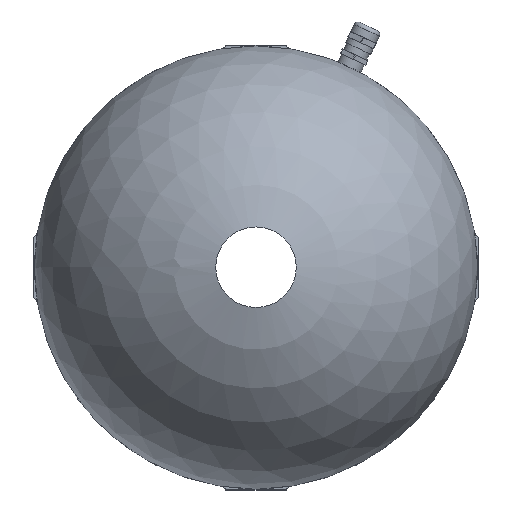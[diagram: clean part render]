
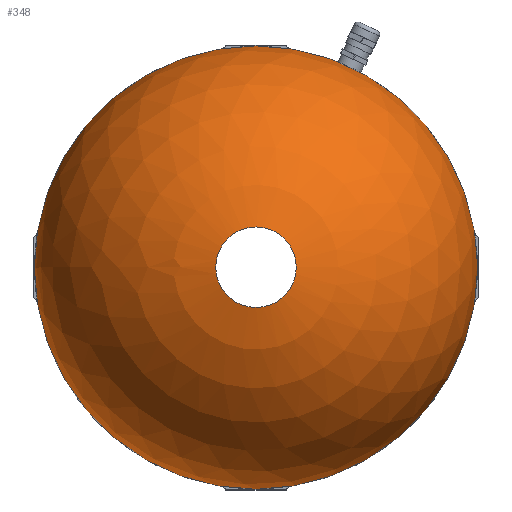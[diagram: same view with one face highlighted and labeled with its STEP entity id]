
A CAD part, top view. The second image highlights one B-rep face of the part: STEP entity #348.
In plain terms, the highlighted spherical face has radius 110 mm.
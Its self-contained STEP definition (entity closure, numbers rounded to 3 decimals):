
#348 = ADVANCED_FACE( '', ( #838, #839 ), #840, .T. );
#838 = FACE_OUTER_BOUND( '', #1471, .T. );
#839 = FACE_OUTER_BOUND( '', #1472, .T. );
#840 = SPHERICAL_SURFACE( '', #1473, 110. );
#1471 = EDGE_LOOP( '', ( #2482 ) );
#1472 = EDGE_LOOP( '', ( #2483 ) );
#1473 = AXIS2_PLACEMENT_3D( '', #2484, #2485, #2486 );
#2482 = ORIENTED_EDGE( '', *, *, #3755, .T. );
#2483 = ORIENTED_EDGE( '', *, *, #3555, .F. );
#2484 = CARTESIAN_POINT( '', ( 0., 0., 22. ) );
#2485 = DIRECTION( '', ( 0., 0., -1. ) );
#2486 = DIRECTION( '', ( 0., 1., 0. ) );
#3555 = EDGE_CURVE( '', #4258, #4258, #4259, .T. );
#3755 = EDGE_CURVE( '', #4576, #4576, #4577, .T. );
#4258 = VERTEX_POINT( '', #5381 );
#4259 = CIRCLE( '', #5382, 110. );
#4576 = VERTEX_POINT( '', #6063 );
#4577 = CIRCLE( '', #6064, 20. );
#5381 = CARTESIAN_POINT( '', ( -110., 0., 22. ) );
#5382 = AXIS2_PLACEMENT_3D( '', #6801, #6802, #6803 );
#6063 = CARTESIAN_POINT( '', ( -20., 0., 130.167 ) );
#6064 = AXIS2_PLACEMENT_3D( '', #7066, #7067, #7068 );
#6801 = CARTESIAN_POINT( '', ( 0., 0., 22. ) );
#6802 = DIRECTION( '', ( 0., 0., -1. ) );
#6803 = DIRECTION( '', ( -1., 0., 0. ) );
#7066 = CARTESIAN_POINT( '', ( 0., 0., 130.167 ) );
#7067 = DIRECTION( '', ( 0., 0., -1. ) );
#7068 = DIRECTION( '', ( -1., 0., 0. ) );
